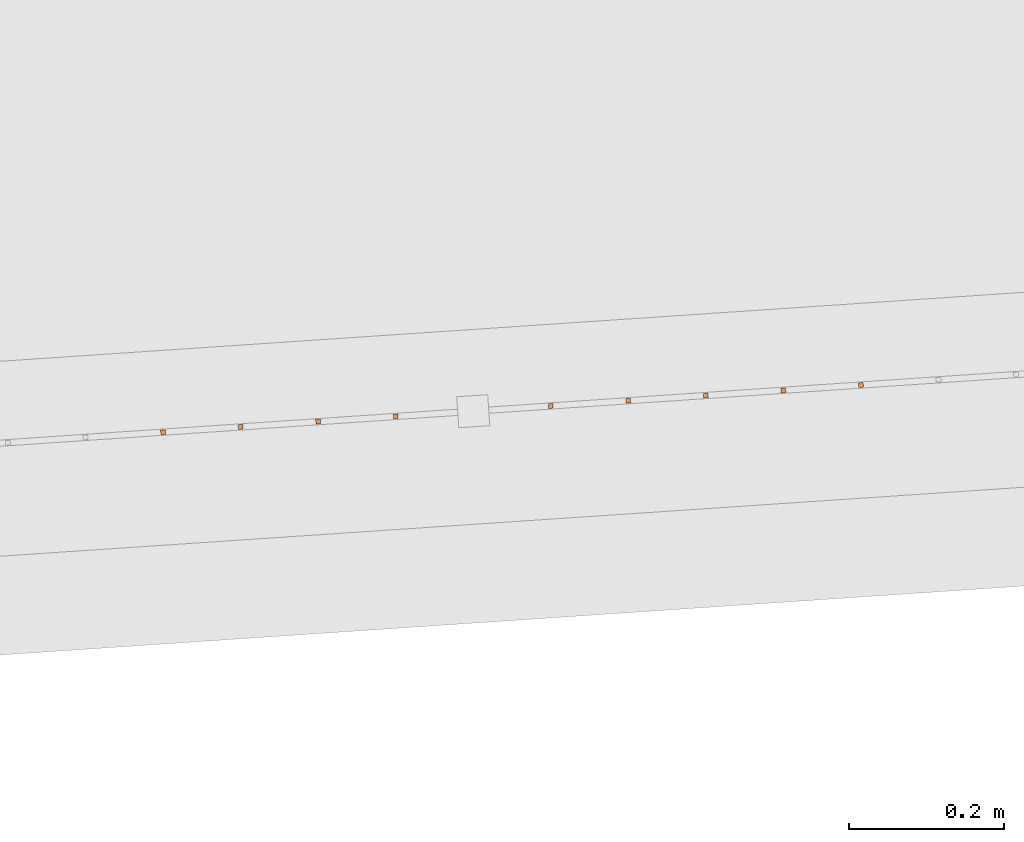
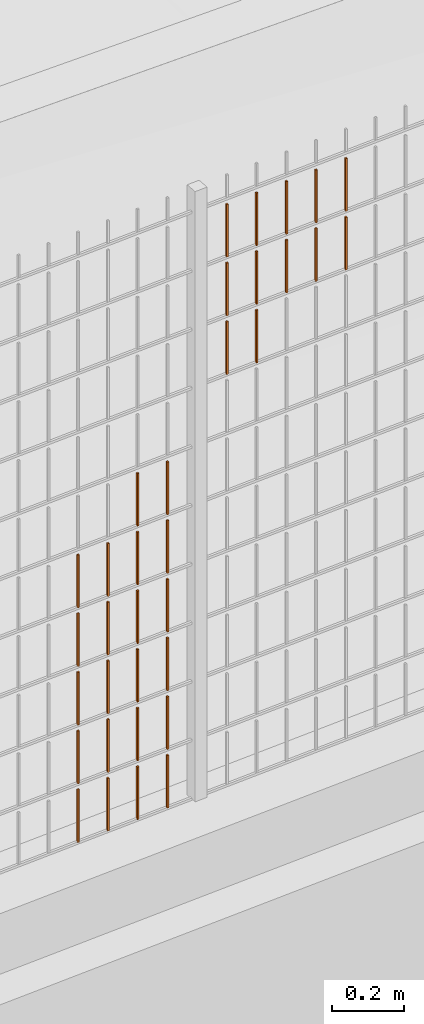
# One storey, part 344 of 1809: 34 proxies, 1 element without a shape of its own.
"""IFC2X3 building model written with IfcOpenShell, lengths in millimetres."""

from ifc_helpers import new_model, entity, si_unit, converted_unit, derived_unit, money_unit, direction, frame, origin_with_axes, place, context, subcontext, project, spatial, faceted_brep, source, transform, mapped, material, type_object, element, aggregate, save


model = new_model("IFC2X3")

# Units and contexts
model_context = context("Model", 3, precision=0.01, world=origin_with_axes(), true_north=direction((0.0, 1.0)))
body_context = subcontext(model_context, "Body", "Model", "MODEL_VIEW")
ifc_project = project(units=[si_unit("LENGTHUNIT", "METRE", prefix="MILLI"), si_unit("AREAUNIT", "SQUARE_METRE"), si_unit("VOLUMEUNIT", "CUBIC_METRE"), converted_unit("PLANEANGLEUNIT", "DEGREE", entity("IfcPlaneAngleMeasure", 0.0174532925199), si_unit("PLANEANGLEUNIT", "RADIAN"), dimensions=[0, 0, 0, 0, 0, 0, 0]), si_unit("SOLIDANGLEUNIT", "STERADIAN"), money_unit("EUR"), converted_unit("TIMEUNIT", "Year", entity("IfcTimeMeasure", 31556926.0), si_unit("TIMEUNIT", "SECOND"), dimensions=[0, 0, 1, 0, 0, 0, 0]), si_unit("MASSUNIT", "GRAM", prefix="KILO"), si_unit("THERMODYNAMICTEMPERATUREUNIT", "DEGREE_CELSIUS"), si_unit("LUMINOUSINTENSITYUNIT", "LUMEN"), si_unit("ENERGYUNIT", "JOULE", prefix="MEGA"), derived_unit("THERMALCONDUCTANCEUNIT", [(si_unit("POWERUNIT", "WATT"), 1), (si_unit("LENGTHUNIT", "METRE"), -1), (si_unit("THERMODYNAMICTEMPERATUREUNIT", "KELVIN"), -1)]), derived_unit("SPECIFICHEATCAPACITYUNIT", [(si_unit("ENERGYUNIT", "JOULE"), 1), (si_unit("MASSUNIT", "GRAM", prefix="KILO"), -1), (si_unit("THERMODYNAMICTEMPERATUREUNIT", "KELVIN"), -1)]), derived_unit("MASSDENSITYUNIT", [(si_unit("MASSUNIT", "GRAM", prefix="KILO"), 1), (si_unit("VOLUMEUNIT", "CUBIC_METRE"), -1)])], contexts=[model_context])

# Site, building, storey
site_placement = place(None, origin_with_axes())
site = spatial("IfcSite", under=ifc_project, at=site_placement, Name="Politse- ja Piirivalveameti ning Päästeameti ühishoone", CompositionType="ELEMENT")
building_placement = place(site_placement, origin_with_axes())
building = spatial("IfcBuilding", under=site, at=building_placement, Name="Politse- ja Piirivalveameti ning Päästeameti ühishoone", CompositionType="ELEMENT")
storey_placement = place(building_placement, origin_with_axes())
storey = spatial("IfcBuildingStorey", under=building, at=storey_placement, Name="Esimene korrus", CompositionType="ELEMENT", Elevation=0.0)

# Proxies
building_element_proxy_type_1 = type_object("IfcBuildingElementProxyType", Name="Railing Type", PredefinedType="NOTDEFINED")
proxy_1_placement = place(storey_placement, frame((89252.001212, -29183.4766571, 203.661247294), z_axis=(0.0, 0.0, 1.0), x_axis=(1.0, 0.0, 0.0)))
proxy_1 = element("IfcBuildingElementProxy", 1, at=proxy_1_placement, inside=storey, type_object=building_element_proxy_type_1, Name="PIIRDEAED")
ifc_material = material(Name="ET-03_Raud")
building_element_proxy_type_2 = type_object("IfcBuildingElementProxyType", Name="IfcBuildingElementProxy", PredefinedType="NOTDEFINED")
shared_shape_1 = source(origin_with_axes(), body_context, "Body", "Brep", [
    faceted_brep([(3.0, 3.0, -0.000752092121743), (-3.0, 3.0, -0.000752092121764), (-3.0, 3.0, 179.99926046), (3.0, 3.0, 179.99926046), (3.0, -3.0, 0.000752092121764), (-3.0, -3.0, 0.000752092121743), (-3.0, -3.0, 180.000764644), (3.0, -3.0, 180.000764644)], [[[0, 1, 2, 3]], [[0, 4, 5, 1]], [[1, 5, 6, 2]], [[3, 2, 6, 7]], [[4, 0, 3, 7]], [[5, 4, 7, 6]]]),
])
proxy_2_placement = place(proxy_1_placement, frame((-29260.014631, -19274.1783266, 1819.88226185), z_axis=(0.0, 0.0, 1.0), x_axis=(1.0, 0.0, 0.0)))
proxy_2 = element("IfcBuildingElementProxy", 2, at=proxy_2_placement, type_object=building_element_proxy_type_2, material=ifc_material, Name="BALUSTER - 001", context=body_context, shape_type="MappedRepresentation", body=[
    mapped(shared_shape_1, transform((0.0, 0.0, 0.0), x_axis=(-0.0673926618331, 0.997726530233, 0.0), y_axis=(-0.997726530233, -0.0673926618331, 0.0), z_axis=(0.0, 0.0, 1.0))),
])
shared_shape_2 = source(origin_with_axes(), body_context, "Body", "Brep", [
    faceted_brep([(3.0, 3.0, -0.000752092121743), (-3.0, 3.0, -0.000752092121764), (-3.0, 3.0, 179.99926046), (3.0, 3.0, 179.99926046), (3.0, -3.0, 0.000752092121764), (-3.0, -3.0, 0.000752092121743), (-3.0, -3.0, 180.000764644), (3.0, -3.0, 180.000764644)], [[[0, 1, 2, 3]], [[0, 4, 5, 1]], [[1, 5, 6, 2]], [[3, 2, 6, 7]], [[4, 0, 3, 7]], [[5, 4, 7, 6]]]),
])
proxy_3_placement = place(proxy_1_placement, frame((-29260.014631, -19274.1783266, 1619.88226185), z_axis=(0.0, 0.0, 1.0), x_axis=(1.0, 0.0, 0.0)))
proxy_3 = element("IfcBuildingElementProxy", 3, at=proxy_3_placement, type_object=building_element_proxy_type_2, material=ifc_material, Name="BALUSTER - 001", context=body_context, shape_type="MappedRepresentation", body=[
    mapped(shared_shape_2, transform((0.0, 0.0, 0.0), x_axis=(-0.0673926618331, 0.997726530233, 0.0), y_axis=(-0.997726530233, -0.0673926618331, 0.0), z_axis=(0.0, 0.0, 1.0))),
])
shared_shape_3 = source(origin_with_axes(), body_context, "Body", "Brep", [
    faceted_brep([(3.0, 3.0, -0.000752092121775), (-3.0, 3.0, -0.000752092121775), (-3.0, 3.0, 179.99926046), (3.0, 3.0, 179.99926046), (3.0, -3.0, 0.000752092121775), (-3.0, -3.0, 0.000752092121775), (-3.0, -3.0, 180.000764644), (3.0, -3.0, 180.000764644)], [[[0, 1, 2, 3]], [[0, 4, 5, 1]], [[1, 5, 6, 2]], [[3, 2, 6, 7]], [[4, 0, 3, 7]], [[5, 4, 7, 6]]]),
])
proxy_4_placement = place(proxy_1_placement, frame((-29659.1052431, -19301.1353914, 1419.7819829), z_axis=(0.0, 0.0, 1.0), x_axis=(1.0, 0.0, 0.0)))
proxy_4 = element("IfcBuildingElementProxy", 4, at=proxy_4_placement, type_object=building_element_proxy_type_2, material=ifc_material, Name="BALUSTER - 001", context=body_context, shape_type="MappedRepresentation", body=[
    mapped(shared_shape_3, transform((0.0, 0.0, 0.0), x_axis=(-0.0673926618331, 0.997726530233, 0.0), y_axis=(-0.997726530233, -0.0673926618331, 0.0), z_axis=(0.0, 0.0, 1.0))),
])
shared_shape_4 = source(origin_with_axes(), body_context, "Body", "Brep", [
    faceted_brep([(3.0, 3.0, -0.000752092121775), (-3.0, 3.0, -0.000752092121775), (-3.0, 3.0, 179.99926046), (3.0, 3.0, 179.99926046), (3.0, -3.0, 0.000752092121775), (-3.0, -3.0, 0.000752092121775), (-3.0, -3.0, 180.000764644), (3.0, -3.0, 180.000764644)], [[[0, 1, 2, 3]], [[0, 4, 5, 1]], [[1, 5, 6, 2]], [[3, 2, 6, 7]], [[4, 0, 3, 7]], [[5, 4, 7, 6]]]),
])
proxy_5_placement = place(proxy_1_placement, frame((-29559.3325901, -19294.3961252, 1819.80705264), z_axis=(0.0, 0.0, 1.0), x_axis=(1.0, 0.0, 0.0)))
proxy_5 = element("IfcBuildingElementProxy", 5, at=proxy_5_placement, type_object=building_element_proxy_type_2, material=ifc_material, Name="BALUSTER - 001", context=body_context, shape_type="MappedRepresentation", body=[
    mapped(shared_shape_4, transform((0.0, 0.0, 0.0), x_axis=(-0.0673926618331, 0.997726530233, 0.0), y_axis=(-0.997726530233, -0.0673926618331, 0.0), z_axis=(0.0, 0.0, 1.0))),
])
proxy_6_placement = place(proxy_1_placement, frame((-29659.1052431, -19301.1353914, 1819.7819829), z_axis=(0.0, 0.0, 1.0), x_axis=(1.0, 0.0, 0.0)))
proxy_6 = element("IfcBuildingElementProxy", 6, at=proxy_6_placement, type_object=building_element_proxy_type_2, material=ifc_material, Name="BALUSTER - 001", context=body_context, shape_type="MappedRepresentation", body=[
    mapped(shared_shape_4, transform((0.0, 0.0, 0.0), x_axis=(-0.0673926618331, 0.997726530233, 0.0), y_axis=(-0.997726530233, -0.0673926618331, 0.0), z_axis=(0.0, 0.0, 1.0))),
])
shared_shape_5 = source(origin_with_axes(), body_context, "Body", "Brep", [
    faceted_brep([(3.0, 3.0, -0.000752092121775), (-3.0, 3.0, -0.000752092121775), (-3.0, 3.0, 179.99926046), (3.0, 3.0, 179.99926046), (3.0, -3.0, 0.000752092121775), (-3.0, -3.0, 0.000752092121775), (-3.0, -3.0, 180.000764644), (3.0, -3.0, 180.000764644)], [[[0, 1, 2, 3]], [[0, 4, 5, 1]], [[1, 5, 6, 2]], [[3, 2, 6, 7]], [[4, 0, 3, 7]], [[5, 4, 7, 6]]]),
])
proxy_7_placement = place(proxy_1_placement, frame((-29559.3325901, -19294.3961252, 1419.80705264), z_axis=(0.0, 0.0, 1.0), x_axis=(1.0, 0.0, 0.0)))
proxy_7 = element("IfcBuildingElementProxy", 7, at=proxy_7_placement, type_object=building_element_proxy_type_2, material=ifc_material, Name="BALUSTER - 001", context=body_context, shape_type="MappedRepresentation", body=[
    mapped(shared_shape_5, transform((0.0, 0.0, 0.0), x_axis=(-0.0673926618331, 0.997726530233, 0.0), y_axis=(-0.997726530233, -0.0673926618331, 0.0), z_axis=(0.0, 0.0, 1.0))),
])
proxy_8_placement = place(proxy_1_placement, frame((-29559.3325901, -19294.3961252, 1619.80705264), z_axis=(0.0, 0.0, 1.0), x_axis=(1.0, 0.0, 0.0)))
proxy_8 = element("IfcBuildingElementProxy", 8, at=proxy_8_placement, type_object=building_element_proxy_type_2, material=ifc_material, Name="BALUSTER - 001", context=body_context, shape_type="MappedRepresentation", body=[
    mapped(shared_shape_5, transform((0.0, 0.0, 0.0), x_axis=(-0.0673926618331, 0.997726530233, 0.0), y_axis=(-0.997726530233, -0.0673926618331, 0.0), z_axis=(0.0, 0.0, 1.0))),
])
shared_shape_6 = source(origin_with_axes(), body_context, "Body", "Brep", [
    faceted_brep([(3.0, 3.0, -0.000752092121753), (-3.0, 3.0, -0.000752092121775), (-3.0, 3.0, 179.99926046), (3.0, 3.0, 179.99926046), (3.0, -3.0, 0.000752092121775), (-3.0, -3.0, 0.000752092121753), (-3.0, -3.0, 180.000764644), (3.0, -3.0, 180.000764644)], [[[0, 1, 2, 3]], [[0, 4, 5, 1]], [[1, 5, 6, 2]], [[3, 2, 6, 7]], [[4, 0, 3, 7]], [[5, 4, 7, 6]]]),
])
proxy_9_placement = place(proxy_1_placement, frame((-29958.4232022, -19321.3531899, 19.7067736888), z_axis=(0.0, 0.0, 1.0), x_axis=(1.0, 0.0, 0.0)))
proxy_9 = element("IfcBuildingElementProxy", 9, at=proxy_9_placement, type_object=building_element_proxy_type_2, material=ifc_material, Name="BALUSTER - 001", context=body_context, shape_type="MappedRepresentation", body=[
    mapped(shared_shape_6, transform((0.0, 0.0, 0.0), x_axis=(-0.0673926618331, 0.997726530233, 0.0), y_axis=(-0.997726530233, -0.0673926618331, 0.0), z_axis=(0.0, 0.0, 1.0))),
])
shared_shape_7 = source(origin_with_axes(), body_context, "Body", "Brep", [
    faceted_brep([(3.0, 3.0, -0.000752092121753), (-3.0, 3.0, -0.000752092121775), (-3.0, 3.0, 179.99926046), (3.0, 3.0, 179.99926046), (3.0, -3.0, 0.000752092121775), (-3.0, -3.0, 0.000752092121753), (-3.0, -3.0, 180.000764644), (3.0, -3.0, 180.000764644)], [[[0, 1, 2, 3]], [[0, 4, 5, 1]], [[1, 5, 6, 2]], [[3, 2, 6, 7]], [[4, 0, 3, 7]], [[5, 4, 7, 6]]]),
])
proxy_10_placement = place(proxy_1_placement, frame((-29858.6505492, -19314.6139237, 19.7318434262), z_axis=(0.0, 0.0, 1.0), x_axis=(1.0, 0.0, 0.0)))
proxy_10 = element("IfcBuildingElementProxy", 10, at=proxy_10_placement, type_object=building_element_proxy_type_2, material=ifc_material, Name="BALUSTER - 001", context=body_context, shape_type="MappedRepresentation", body=[
    mapped(shared_shape_7, transform((0.0, 0.0, 0.0), x_axis=(-0.0673926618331, 0.997726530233, 0.0), y_axis=(-0.997726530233, -0.0673926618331, 0.0), z_axis=(0.0, 0.0, 1.0))),
])
shared_shape_8 = source(origin_with_axes(), body_context, "Body", "Brep", [
    faceted_brep([(3.0, 3.0, -0.000752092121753), (-3.0, 3.0, -0.000752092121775), (-3.0, 3.0, 179.99926046), (3.0, 3.0, 179.99926046), (3.0, -3.0, 0.000752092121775), (-3.0, -3.0, 0.000752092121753), (-3.0, -3.0, 180.000764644), (3.0, -3.0, 180.000764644)], [[[0, 1, 2, 3]], [[0, 4, 5, 1]], [[1, 5, 6, 2]], [[3, 2, 6, 7]], [[4, 0, 3, 7]], [[5, 4, 7, 6]]]),
])
proxy_11_placement = place(proxy_1_placement, frame((-29858.6505492, -19314.6139237, 219.731843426), z_axis=(0.0, 0.0, 1.0), x_axis=(1.0, 0.0, 0.0)))
proxy_11 = element("IfcBuildingElementProxy", 11, at=proxy_11_placement, type_object=building_element_proxy_type_2, material=ifc_material, Name="BALUSTER - 001", context=body_context, shape_type="MappedRepresentation", body=[
    mapped(shared_shape_8, transform((0.0, 0.0, 0.0), x_axis=(-0.0673926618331, 0.997726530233, 0.0), y_axis=(-0.997726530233, -0.0673926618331, 0.0), z_axis=(0.0, 0.0, 1.0))),
])
proxy_12_placement = place(proxy_1_placement, frame((-29858.6505492, -19314.6139237, 419.731843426), z_axis=(0.0, 0.0, 1.0), x_axis=(1.0, 0.0, 0.0)))
proxy_12 = element("IfcBuildingElementProxy", 12, at=proxy_12_placement, type_object=building_element_proxy_type_2, material=ifc_material, Name="BALUSTER - 001", context=body_context, shape_type="MappedRepresentation", body=[
    mapped(shared_shape_8, transform((0.0, 0.0, 0.0), x_axis=(-0.0673926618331, 0.997726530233, 0.0), y_axis=(-0.997726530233, -0.0673926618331, 0.0), z_axis=(0.0, 0.0, 1.0))),
])
proxy_13_placement = place(proxy_1_placement, frame((-29958.4232022, -19321.3531899, 419.706773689), z_axis=(0.0, 0.0, 1.0), x_axis=(1.0, 0.0, 0.0)))
proxy_13 = element("IfcBuildingElementProxy", 13, at=proxy_13_placement, type_object=building_element_proxy_type_2, material=ifc_material, Name="BALUSTER - 001", context=body_context, shape_type="MappedRepresentation", body=[
    mapped(shared_shape_8, transform((0.0, 0.0, 0.0), x_axis=(-0.0673926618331, 0.997726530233, 0.0), y_axis=(-0.997726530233, -0.0673926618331, 0.0), z_axis=(0.0, 0.0, 1.0))),
])
shared_shape_9 = source(origin_with_axes(), body_context, "Body", "Brep", [
    faceted_brep([(3.0, 3.0, -0.000752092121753), (-3.0, 3.0, -0.000752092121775), (-3.0, 3.0, 179.99926046), (3.0, 3.0, 179.99926046), (3.0, -3.0, 0.000752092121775), (-3.0, -3.0, 0.000752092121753), (-3.0, -3.0, 180.000764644), (3.0, -3.0, 180.000764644)], [[[0, 1, 2, 3]], [[0, 4, 5, 1]], [[1, 5, 6, 2]], [[3, 2, 6, 7]], [[4, 0, 3, 7]], [[5, 4, 7, 6]]]),
])
proxy_14_placement = place(proxy_1_placement, frame((-29958.4232022, -19321.3531899, 619.706773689), z_axis=(0.0, 0.0, 1.0), x_axis=(1.0, 0.0, 0.0)))
proxy_14 = element("IfcBuildingElementProxy", 14, at=proxy_14_placement, type_object=building_element_proxy_type_2, material=ifc_material, Name="BALUSTER - 001", context=body_context, shape_type="MappedRepresentation", body=[
    mapped(shared_shape_9, transform((0.0, 0.0, 0.0), x_axis=(-0.0673926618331, 0.997726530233, 0.0), y_axis=(-0.997726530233, -0.0673926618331, 0.0), z_axis=(0.0, 0.0, 1.0))),
])
shared_shape_10 = source(origin_with_axes(), body_context, "Body", "Brep", [
    faceted_brep([(3.0, 3.0, -0.000752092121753), (-3.0, 3.0, -0.000752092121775), (-3.0, 3.0, 179.99926046), (3.0, 3.0, 179.99926046), (3.0, -3.0, 0.000752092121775), (-3.0, -3.0, 0.000752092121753), (-3.0, -3.0, 180.000764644), (3.0, -3.0, 180.000764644)], [[[0, 1, 2, 3]], [[0, 4, 5, 1]], [[1, 5, 6, 2]], [[3, 2, 6, 7]], [[4, 0, 3, 7]], [[5, 4, 7, 6]]]),
])
proxy_15_placement = place(proxy_1_placement, frame((-29858.6505492, -19314.6139237, 819.731843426), z_axis=(0.0, 0.0, 1.0), x_axis=(1.0, 0.0, 0.0)))
proxy_15 = element("IfcBuildingElementProxy", 15, at=proxy_15_placement, type_object=building_element_proxy_type_2, material=ifc_material, Name="BALUSTER - 001", context=body_context, shape_type="MappedRepresentation", body=[
    mapped(shared_shape_10, transform((0.0, 0.0, 0.0), x_axis=(-0.0673926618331, 0.997726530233, 0.0), y_axis=(-0.997726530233, -0.0673926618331, 0.0), z_axis=(0.0, 0.0, 1.0))),
])
shared_shape_11 = source(origin_with_axes(), body_context, "Body", "Brep", [
    faceted_brep([(3.0, 3.0, -0.000752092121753), (-3.0, 3.0, -0.000752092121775), (-3.0, 3.0, 179.99926046), (3.0, 3.0, 179.99926046), (3.0, -3.0, 0.000752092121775), (-3.0, -3.0, 0.000752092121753), (-3.0, -3.0, 180.000764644), (3.0, -3.0, 180.000764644)], [[[0, 1, 2, 3]], [[0, 4, 5, 1]], [[1, 5, 6, 2]], [[3, 2, 6, 7]], [[4, 0, 3, 7]], [[5, 4, 7, 6]]]),
])
proxy_16_placement = place(proxy_1_placement, frame((-29858.6505492, -19314.6139237, 619.731843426), z_axis=(0.0, 0.0, 1.0), x_axis=(1.0, 0.0, 0.0)))
proxy_16 = element("IfcBuildingElementProxy", 16, at=proxy_16_placement, type_object=building_element_proxy_type_2, material=ifc_material, Name="BALUSTER - 001", context=body_context, shape_type="MappedRepresentation", body=[
    mapped(shared_shape_11, transform((0.0, 0.0, 0.0), x_axis=(-0.0673926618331, 0.997726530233, 0.0), y_axis=(-0.997726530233, -0.0673926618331, 0.0), z_axis=(0.0, 0.0, 1.0))),
])
proxy_17_placement = place(proxy_1_placement, frame((-29958.4232022, -19321.3531899, 819.706773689), z_axis=(0.0, 0.0, 1.0), x_axis=(1.0, 0.0, 0.0)))
proxy_17 = element("IfcBuildingElementProxy", 17, at=proxy_17_placement, type_object=building_element_proxy_type_2, material=ifc_material, Name="BALUSTER - 001", context=body_context, shape_type="MappedRepresentation", body=[
    mapped(shared_shape_11, transform((0.0, 0.0, 0.0), x_axis=(-0.0673926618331, 0.997726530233, 0.0), y_axis=(-0.997726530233, -0.0673926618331, 0.0), z_axis=(0.0, 0.0, 1.0))),
])
shared_shape_12 = source(origin_with_axes(), body_context, "Body", "Brep", [
    faceted_brep([(3.0, 3.0, -0.000752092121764), (-3.0, 3.0, -0.000752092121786), (-3.0, 3.0, 179.99926046), (3.0, 3.0, 179.99926046), (3.0, -3.0, 0.000752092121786), (-3.0, -3.0, 0.000752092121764), (-3.0, -3.0, 180.000764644), (3.0, -3.0, 180.000764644)], [[[0, 1, 2, 3]], [[0, 4, 5, 1]], [[1, 5, 6, 2]], [[3, 2, 6, 7]], [[4, 0, 3, 7]], [[5, 4, 7, 6]]]),
])
proxy_18_placement = place(proxy_1_placement, frame((-29459.5599371, -19287.656859, 1819.83212238), z_axis=(0.0, 0.0, 1.0), x_axis=(1.0, 0.0, 0.0)))
proxy_18 = element("IfcBuildingElementProxy", 18, at=proxy_18_placement, type_object=building_element_proxy_type_2, material=ifc_material, Name="BALUSTER - 001", context=body_context, shape_type="MappedRepresentation", body=[
    mapped(shared_shape_12, transform((0.0, 0.0, 0.0), x_axis=(-0.0673926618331, 0.997726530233, 0.0), y_axis=(-0.997726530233, -0.0673926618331, 0.0), z_axis=(0.0, 0.0, 1.0))),
])
shared_shape_13 = source(origin_with_axes(), body_context, "Body", "Brep", [
    faceted_brep([(3.0, 3.0, -0.000752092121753), (-3.0, 3.0, -0.000752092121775), (-3.0, 3.0, 179.99926046), (3.0, 3.0, 179.99926046), (3.0, -3.0, 0.000752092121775), (-3.0, -3.0, 0.000752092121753), (-3.0, -3.0, 180.000764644), (3.0, -3.0, 180.000764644)], [[[0, 1, 2, 3]], [[0, 4, 5, 1]], [[1, 5, 6, 2]], [[3, 2, 6, 7]], [[4, 0, 3, 7]], [[5, 4, 7, 6]]]),
])
proxy_19_placement = place(proxy_1_placement, frame((-30157.9685082, -19334.8317223, 19.656634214), z_axis=(0.0, 0.0, 1.0), x_axis=(1.0, 0.0, 0.0)))
proxy_19 = element("IfcBuildingElementProxy", 19, at=proxy_19_placement, type_object=building_element_proxy_type_2, material=ifc_material, Name="BALUSTER - 001", context=body_context, shape_type="MappedRepresentation", body=[
    mapped(shared_shape_13, transform((0.0, 0.0, 0.0), x_axis=(-0.0673926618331, 0.997726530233, 0.0), y_axis=(-0.997726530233, -0.0673926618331, 0.0), z_axis=(0.0, 0.0, 1.0))),
])
proxy_20_placement = place(proxy_1_placement, frame((-30157.9685082, -19334.8317223, 219.656634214), z_axis=(0.0, 0.0, 1.0), x_axis=(1.0, 0.0, 0.0)))
proxy_20 = element("IfcBuildingElementProxy", 20, at=proxy_20_placement, type_object=building_element_proxy_type_2, material=ifc_material, Name="BALUSTER - 001", context=body_context, shape_type="MappedRepresentation", body=[
    mapped(shared_shape_13, transform((0.0, 0.0, 0.0), x_axis=(-0.0673926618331, 0.997726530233, 0.0), y_axis=(-0.997726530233, -0.0673926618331, 0.0), z_axis=(0.0, 0.0, 1.0))),
])
shared_shape_14 = source(origin_with_axes(), body_context, "Body", "Brep", [
    faceted_brep([(3.0, 3.0, -0.000752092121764), (-3.0, 3.0, -0.000752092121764), (-3.0, 3.0, 179.99926046), (3.0, 3.0, 179.99926046), (3.0, -3.0, 0.000752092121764), (-3.0, -3.0, 0.000752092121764), (-3.0, -3.0, 180.000764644), (3.0, -3.0, 180.000764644)], [[[0, 1, 2, 3]], [[0, 4, 5, 1]], [[1, 5, 6, 2]], [[3, 2, 6, 7]], [[4, 0, 3, 7]], [[5, 4, 7, 6]]]),
])
proxy_21_placement = place(proxy_1_placement, frame((-30058.1958552, -19328.0924561, 19.6817039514), z_axis=(0.0, 0.0, 1.0), x_axis=(1.0, 0.0, 0.0)))
proxy_21 = element("IfcBuildingElementProxy", 21, at=proxy_21_placement, type_object=building_element_proxy_type_2, material=ifc_material, Name="BALUSTER - 001", context=body_context, shape_type="MappedRepresentation", body=[
    mapped(shared_shape_14, transform((0.0, 0.0, 0.0), x_axis=(-0.0673926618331, 0.997726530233, 0.0), y_axis=(-0.997726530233, -0.0673926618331, 0.0), z_axis=(0.0, 0.0, 1.0))),
])
shared_shape_15 = source(origin_with_axes(), body_context, "Body", "Brep", [
    faceted_brep([(3.0, 3.0, -0.000752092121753), (-3.0, 3.0, -0.000752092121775), (-3.0, 3.0, 179.99926046), (3.0, 3.0, 179.99926046), (3.0, -3.0, 0.000752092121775), (-3.0, -3.0, 0.000752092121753), (-3.0, -3.0, 180.000764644), (3.0, -3.0, 180.000764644)], [[[0, 1, 2, 3]], [[0, 4, 5, 1]], [[1, 5, 6, 2]], [[3, 2, 6, 7]], [[4, 0, 3, 7]], [[5, 4, 7, 6]]]),
])
proxy_22_placement = place(proxy_1_placement, frame((-29958.4232022, -19321.3531899, 219.706773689), z_axis=(0.0, 0.0, 1.0), x_axis=(1.0, 0.0, 0.0)))
proxy_22 = element("IfcBuildingElementProxy", 22, at=proxy_22_placement, type_object=building_element_proxy_type_2, material=ifc_material, Name="BALUSTER - 001", context=body_context, shape_type="MappedRepresentation", body=[
    mapped(shared_shape_15, transform((0.0, 0.0, 0.0), x_axis=(-0.0673926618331, 0.997726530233, 0.0), y_axis=(-0.997726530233, -0.0673926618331, 0.0), z_axis=(0.0, 0.0, 1.0))),
])
shared_shape_16 = source(origin_with_axes(), body_context, "Body", "Brep", [
    faceted_brep([(3.0, 3.0, -0.000752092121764), (-3.0, 3.0, -0.000752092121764), (-3.0, 3.0, 179.99926046), (3.0, 3.0, 179.99926046), (3.0, -3.0, 0.000752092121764), (-3.0, -3.0, 0.000752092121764), (-3.0, -3.0, 180.000764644), (3.0, -3.0, 180.000764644)], [[[0, 1, 2, 3]], [[0, 4, 5, 1]], [[1, 5, 6, 2]], [[3, 2, 6, 7]], [[4, 0, 3, 7]], [[5, 4, 7, 6]]]),
])
proxy_23_placement = place(proxy_1_placement, frame((-30058.1958552, -19328.0924561, 419.681703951), z_axis=(0.0, 0.0, 1.0), x_axis=(1.0, 0.0, 0.0)))
proxy_23 = element("IfcBuildingElementProxy", 23, at=proxy_23_placement, type_object=building_element_proxy_type_2, material=ifc_material, Name="BALUSTER - 001", context=body_context, shape_type="MappedRepresentation", body=[
    mapped(shared_shape_16, transform((0.0, 0.0, 0.0), x_axis=(-0.0673926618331, 0.997726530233, 0.0), y_axis=(-0.997726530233, -0.0673926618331, 0.0), z_axis=(0.0, 0.0, 1.0))),
])
shared_shape_17 = source(origin_with_axes(), body_context, "Body", "Brep", [
    faceted_brep([(3.0, 3.0, -0.000752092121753), (-3.0, 3.0, -0.000752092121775), (-3.0, 3.0, 179.99926046), (3.0, 3.0, 179.99926046), (3.0, -3.0, 0.000752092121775), (-3.0, -3.0, 0.000752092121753), (-3.0, -3.0, 180.000764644), (3.0, -3.0, 180.000764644)], [[[0, 1, 2, 3]], [[0, 4, 5, 1]], [[1, 5, 6, 2]], [[3, 2, 6, 7]], [[4, 0, 3, 7]], [[5, 4, 7, 6]]]),
])
proxy_24_placement = place(proxy_1_placement, frame((-30157.9685082, -19334.8317223, 619.656634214), z_axis=(0.0, 0.0, 1.0), x_axis=(1.0, 0.0, 0.0)))
proxy_24 = element("IfcBuildingElementProxy", 24, at=proxy_24_placement, type_object=building_element_proxy_type_2, material=ifc_material, Name="BALUSTER - 001", context=body_context, shape_type="MappedRepresentation", body=[
    mapped(shared_shape_17, transform((0.0, 0.0, 0.0), x_axis=(-0.0673926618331, 0.997726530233, 0.0), y_axis=(-0.997726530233, -0.0673926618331, 0.0), z_axis=(0.0, 0.0, 1.0))),
])
shared_shape_18 = source(origin_with_axes(), body_context, "Body", "Brep", [
    faceted_brep([(3.0, 3.0, -0.000752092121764), (-3.0, 3.0, -0.000752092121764), (-3.0, 3.0, 179.99926046), (3.0, 3.0, 179.99926046), (3.0, -3.0, 0.000752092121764), (-3.0, -3.0, 0.000752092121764), (-3.0, -3.0, 180.000764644), (3.0, -3.0, 180.000764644)], [[[0, 1, 2, 3]], [[0, 4, 5, 1]], [[1, 5, 6, 2]], [[3, 2, 6, 7]], [[4, 0, 3, 7]], [[5, 4, 7, 6]]]),
])
proxy_25_placement = place(proxy_1_placement, frame((-30058.1958552, -19328.0924561, 619.681703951), z_axis=(0.0, 0.0, 1.0), x_axis=(1.0, 0.0, 0.0)))
proxy_25 = element("IfcBuildingElementProxy", 25, at=proxy_25_placement, type_object=building_element_proxy_type_2, material=ifc_material, Name="BALUSTER - 001", context=body_context, shape_type="MappedRepresentation", body=[
    mapped(shared_shape_18, transform((0.0, 0.0, 0.0), x_axis=(-0.0673926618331, 0.997726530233, 0.0), y_axis=(-0.997726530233, -0.0673926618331, 0.0), z_axis=(0.0, 0.0, 1.0))),
])
shared_shape_19 = source(origin_with_axes(), body_context, "Body", "Brep", [
    faceted_brep([(3.0, 3.0, -0.000752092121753), (-3.0, 3.0, -0.000752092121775), (-3.0, 3.0, 179.99926046), (3.0, 3.0, 179.99926046), (3.0, -3.0, 0.000752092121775), (-3.0, -3.0, 0.000752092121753), (-3.0, -3.0, 180.000764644), (3.0, -3.0, 180.000764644)], [[[0, 1, 2, 3]], [[0, 4, 5, 1]], [[1, 5, 6, 2]], [[3, 2, 6, 7]], [[4, 0, 3, 7]], [[5, 4, 7, 6]]]),
])
proxy_26_placement = place(proxy_1_placement, frame((-29359.787284, -19280.9175928, 1819.85719211), z_axis=(0.0, 0.0, 1.0), x_axis=(1.0, 0.0, 0.0)))
proxy_26 = element("IfcBuildingElementProxy", 26, at=proxy_26_placement, type_object=building_element_proxy_type_2, material=ifc_material, Name="BALUSTER - 001", context=body_context, shape_type="MappedRepresentation", body=[
    mapped(shared_shape_19, transform((0.0, 0.0, 0.0), x_axis=(-0.0673926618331, 0.997726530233, 0.0), y_axis=(-0.997726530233, -0.0673926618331, 0.0), z_axis=(0.0, 0.0, 1.0))),
])
proxy_27_placement = place(proxy_1_placement, frame((-30157.9685082, -19334.8317223, 819.656634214), z_axis=(0.0, 0.0, 1.0), x_axis=(1.0, 0.0, 0.0)))
proxy_27 = element("IfcBuildingElementProxy", 27, at=proxy_27_placement, type_object=building_element_proxy_type_2, material=ifc_material, Name="BALUSTER - 001", context=body_context, shape_type="MappedRepresentation", body=[
    mapped(shared_shape_19, transform((0.0, 0.0, 0.0), x_axis=(-0.0673926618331, 0.997726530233, 0.0), y_axis=(-0.997726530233, -0.0673926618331, 0.0), z_axis=(0.0, 0.0, 1.0))),
])
shared_shape_20 = source(origin_with_axes(), body_context, "Body", "Brep", [
    faceted_brep([(3.0, 3.0, -0.000752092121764), (-3.0, 3.0, -0.000752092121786), (-3.0, 3.0, 179.99926046), (3.0, 3.0, 179.99926046), (3.0, -3.0, 0.000752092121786), (-3.0, -3.0, 0.000752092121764), (-3.0, -3.0, 180.000764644), (3.0, -3.0, 180.000764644)], [[[0, 1, 2, 3]], [[0, 4, 5, 1]], [[1, 5, 6, 2]], [[3, 2, 6, 7]], [[4, 0, 3, 7]], [[5, 4, 7, 6]]]),
])
proxy_28_placement = place(proxy_1_placement, frame((-29459.5599371, -19287.656859, 1619.83212238), z_axis=(0.0, 0.0, 1.0), x_axis=(1.0, 0.0, 0.0)))
proxy_28 = element("IfcBuildingElementProxy", 28, at=proxy_28_placement, type_object=building_element_proxy_type_2, material=ifc_material, Name="BALUSTER - 001", context=body_context, shape_type="MappedRepresentation", body=[
    mapped(shared_shape_20, transform((0.0, 0.0, 0.0), x_axis=(-0.0673926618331, 0.997726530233, 0.0), y_axis=(-0.997726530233, -0.0673926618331, 0.0), z_axis=(0.0, 0.0, 1.0))),
])
shared_shape_21 = source(origin_with_axes(), body_context, "Body", "Brep", [
    faceted_brep([(3.0, 3.0, -0.000752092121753), (-3.0, 3.0, -0.000752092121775), (-3.0, 3.0, 179.99926046), (3.0, 3.0, 179.99926046), (3.0, -3.0, 0.000752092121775), (-3.0, -3.0, 0.000752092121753), (-3.0, -3.0, 180.000764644), (3.0, -3.0, 180.000764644)], [[[0, 1, 2, 3]], [[0, 4, 5, 1]], [[1, 5, 6, 2]], [[3, 2, 6, 7]], [[4, 0, 3, 7]], [[5, 4, 7, 6]]]),
])
proxy_29_placement = place(proxy_1_placement, frame((-29359.787284, -19280.9175928, 1619.85719211), z_axis=(0.0, 0.0, 1.0), x_axis=(1.0, 0.0, 0.0)))
proxy_29 = element("IfcBuildingElementProxy", 29, at=proxy_29_placement, type_object=building_element_proxy_type_2, material=ifc_material, Name="BALUSTER - 001", context=body_context, shape_type="MappedRepresentation", body=[
    mapped(shared_shape_21, transform((0.0, 0.0, 0.0), x_axis=(-0.0673926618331, 0.997726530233, 0.0), y_axis=(-0.997726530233, -0.0673926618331, 0.0), z_axis=(0.0, 0.0, 1.0))),
])
shared_shape_22 = source(origin_with_axes(), body_context, "Body", "Brep", [
    faceted_brep([(3.0, 3.0, -0.000752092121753), (-3.0, 3.0, -0.000752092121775), (-3.0, 3.0, 179.99926046), (3.0, 3.0, 179.99926046), (3.0, -3.0, 0.000752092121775), (-3.0, -3.0, 0.000752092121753), (-3.0, -3.0, 180.000764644), (3.0, -3.0, 180.000764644)], [[[0, 1, 2, 3]], [[0, 4, 5, 1]], [[1, 5, 6, 2]], [[3, 2, 6, 7]], [[4, 0, 3, 7]], [[5, 4, 7, 6]]]),
])
proxy_30_placement = place(proxy_1_placement, frame((-30157.9685082, -19334.8317223, 419.656634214), z_axis=(0.0, 0.0, 1.0), x_axis=(1.0, 0.0, 0.0)))
proxy_30 = element("IfcBuildingElementProxy", 30, at=proxy_30_placement, type_object=building_element_proxy_type_2, material=ifc_material, Name="BALUSTER - 001", context=body_context, shape_type="MappedRepresentation", body=[
    mapped(shared_shape_22, transform((0.0, 0.0, 0.0), x_axis=(-0.0673926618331, 0.997726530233, 0.0), y_axis=(-0.997726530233, -0.0673926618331, 0.0), z_axis=(0.0, 0.0, 1.0))),
])
shared_shape_23 = source(origin_with_axes(), body_context, "Body", "Brep", [
    faceted_brep([(3.0, 3.0, -0.000752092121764), (-3.0, 3.0, -0.000752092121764), (-3.0, 3.0, 179.99926046), (3.0, 3.0, 179.99926046), (3.0, -3.0, 0.000752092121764), (-3.0, -3.0, 0.000752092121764), (-3.0, -3.0, 180.000764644), (3.0, -3.0, 180.000764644)], [[[0, 1, 2, 3]], [[0, 4, 5, 1]], [[1, 5, 6, 2]], [[3, 2, 6, 7]], [[4, 0, 3, 7]], [[5, 4, 7, 6]]]),
])
proxy_31_placement = place(proxy_1_placement, frame((-30058.1958552, -19328.0924561, 819.681703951), z_axis=(0.0, 0.0, 1.0), x_axis=(1.0, 0.0, 0.0)))
proxy_31 = element("IfcBuildingElementProxy", 31, at=proxy_31_placement, type_object=building_element_proxy_type_2, material=ifc_material, Name="BALUSTER - 001", context=body_context, shape_type="MappedRepresentation", body=[
    mapped(shared_shape_23, transform((0.0, 0.0, 0.0), x_axis=(-0.0673926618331, 0.997726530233, 0.0), y_axis=(-0.997726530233, -0.0673926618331, 0.0), z_axis=(0.0, 0.0, 1.0))),
])
shared_shape_24 = source(origin_with_axes(), body_context, "Body", "Brep", [
    faceted_brep([(3.0, 3.0, -0.000752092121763), (-3.0, 3.0, -0.000752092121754), (-3.00000000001, 2.99999999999, 179.99926046), (2.99999999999, 2.99999999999, 179.99926046), (3.0, -3.0, 0.000752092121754), (-3.0, -3.0, 0.000752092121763), (-3.00000000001, -3.00000000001, 180.000764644), (2.99999999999, -3.00000000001, 180.000764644)], [[[0, 1, 2, 3]], [[0, 4, 5, 1]], [[1, 5, 6, 2]], [[3, 2, 6, 7]], [[4, 0, 3, 7]], [[5, 4, 7, 6]]]),
])
proxy_32_placement = place(proxy_1_placement, frame((-29858.6505492, -19314.6139237, 1019.73184343), z_axis=(0.0, 0.0, 1.0), x_axis=(1.0, 0.0, 0.0)))
proxy_32 = element("IfcBuildingElementProxy", 32, at=proxy_32_placement, type_object=building_element_proxy_type_2, material=ifc_material, Name="BALUSTER - 001", context=body_context, shape_type="MappedRepresentation", body=[
    mapped(shared_shape_24, transform((0.0, 0.0, 0.0), x_axis=(-0.0673926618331, 0.997726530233, 0.0), y_axis=(-0.997726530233, -0.0673926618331, 0.0), z_axis=(0.0, 0.0, 1.0))),
])
shared_shape_25 = source(origin_with_axes(), body_context, "Body", "Brep", [
    faceted_brep([(3.0, 3.0, -0.000752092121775), (-3.0, 3.0, -0.000752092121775), (-3.0, 3.0, 179.99926046), (3.0, 3.0, 179.99926046), (3.0, -3.0, 0.000752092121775), (-3.0, -3.0, 0.000752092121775), (-3.0, -3.0, 180.000764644), (3.0, -3.0, 180.000764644)], [[[0, 1, 2, 3]], [[0, 4, 5, 1]], [[1, 5, 6, 2]], [[3, 2, 6, 7]], [[4, 0, 3, 7]], [[5, 4, 7, 6]]]),
])
proxy_33_placement = place(proxy_1_placement, frame((-29659.1052431, -19301.1353914, 1619.7819829), z_axis=(0.0, 0.0, 1.0), x_axis=(1.0, 0.0, 0.0)))
proxy_33 = element("IfcBuildingElementProxy", 33, at=proxy_33_placement, type_object=building_element_proxy_type_2, material=ifc_material, Name="BALUSTER - 001", context=body_context, shape_type="MappedRepresentation", body=[
    mapped(shared_shape_25, transform((0.0, 0.0, 0.0), x_axis=(-0.0673926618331, 0.997726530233, 0.0), y_axis=(-0.997726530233, -0.0673926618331, 0.0), z_axis=(0.0, 0.0, 1.0))),
])
shared_shape_26 = source(origin_with_axes(), body_context, "Body", "Brep", [
    faceted_brep([(3.0, 3.0, -0.000752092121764), (-3.0, 3.0, -0.000752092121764), (-3.0, 3.0, 179.99926046), (3.0, 3.0, 179.99926046), (3.0, -3.0, 0.000752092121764), (-3.0, -3.0, 0.000752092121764), (-3.0, -3.0, 180.000764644), (3.0, -3.0, 180.000764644)], [[[0, 1, 2, 3]], [[0, 4, 5, 1]], [[1, 5, 6, 2]], [[3, 2, 6, 7]], [[4, 0, 3, 7]], [[5, 4, 7, 6]]]),
])
proxy_34_placement = place(proxy_1_placement, frame((-30058.1958552, -19328.0924561, 219.681703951), z_axis=(0.0, 0.0, 1.0), x_axis=(1.0, 0.0, 0.0)))
proxy_34 = element("IfcBuildingElementProxy", 34, at=proxy_34_placement, type_object=building_element_proxy_type_2, material=ifc_material, Name="BALUSTER - 001", context=body_context, shape_type="MappedRepresentation", body=[
    mapped(shared_shape_26, transform((0.0, 0.0, 0.0), x_axis=(-0.0673926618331, 0.997726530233, 0.0), y_axis=(-0.997726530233, -0.0673926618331, 0.0), z_axis=(0.0, 0.0, 1.0))),
])
shared_shape_27 = source(origin_with_axes(), body_context, "Body", "Brep", [
    faceted_brep([(3.0, 3.0, -0.000752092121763), (-3.0, 3.0, -0.000752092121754), (-3.00000000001, 2.99999999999, 179.99926046), (2.99999999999, 2.99999999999, 179.99926046), (3.0, -3.0, 0.000752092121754), (-3.0, -3.0, 0.000752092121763), (-3.00000000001, -3.00000000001, 180.000764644), (2.99999999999, -3.00000000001, 180.000764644)], [[[0, 1, 2, 3]], [[0, 4, 5, 1]], [[1, 5, 6, 2]], [[3, 2, 6, 7]], [[4, 0, 3, 7]], [[5, 4, 7, 6]]]),
])
proxy_35_placement = place(proxy_1_placement, frame((-29958.4232022, -19321.3531899, 1019.70677369), z_axis=(0.0, 0.0, 1.0), x_axis=(1.0, 0.0, 0.0)))
proxy_35 = element("IfcBuildingElementProxy", 35, at=proxy_35_placement, type_object=building_element_proxy_type_2, material=ifc_material, Name="BALUSTER - 001", context=body_context, shape_type="MappedRepresentation", body=[
    mapped(shared_shape_27, transform((0.0, 0.0, 0.0), x_axis=(-0.0673926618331, 0.997726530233, 0.0), y_axis=(-0.997726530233, -0.0673926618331, 0.0), z_axis=(0.0, 0.0, 1.0))),
])
aggregate(proxy_1, [proxy_7, proxy_4, proxy_3, proxy_29, proxy_28, proxy_8, proxy_33, proxy_2, proxy_26, proxy_18, proxy_5, proxy_6, proxy_10, proxy_9, proxy_21, proxy_19, proxy_11, proxy_22, proxy_34, proxy_20, proxy_12, proxy_13, proxy_23, proxy_30, proxy_16, proxy_14, proxy_25, proxy_24, proxy_15, proxy_17, proxy_31, proxy_27, proxy_32, proxy_35])

save(model, "model.ifc")
